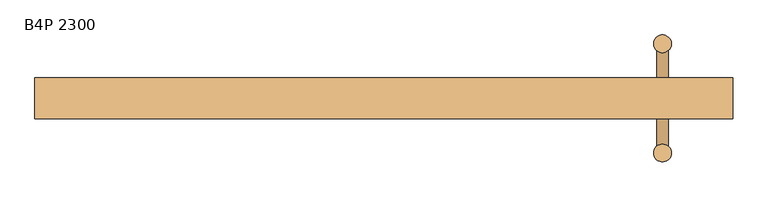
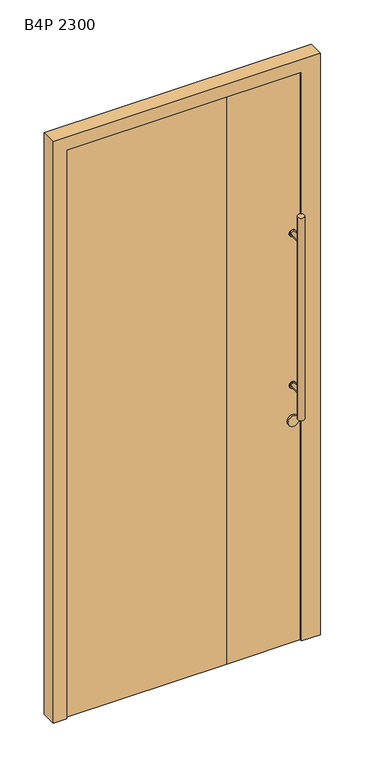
"""IFC4 building model written with IfcOpenShell, lengths in millimetres: door geometry, Mobiliário_Mobiliário de Escritório_Porta de Giro Pivotante - BP_Marelli : B4P 2300."""

from ifc_helpers import new_model, si_unit, point, frame, frame_2d, origin, place, context, project, spatial, polyline, circle_curve, trimmed, segment, composite_curve, outline, extrude, faceted_brep, source, transform, mapped, element, save


def b4p_2300_ee545821(model_context):
    return source(origin(), model_context, "Body", "SolidModel", [
        extrude(outline(polyline([(-447.5, -8.0), (-447.5, 34.0), (190.5, 34.0), (447.5, 34.0), (447.5, -8.0), (152.5, -8.0), (-447.5, -8.0)])), frame((0.0, 0.0, 0.2), z_axis=(0.0, 0.0, 1.0), x_axis=(1.0, 0.0, 0.0)), (0.0, 0.0, 1.0), 2248.3),
        faceted_brep([(-500.0, 42.5, 0.0), (-429.0, 42.5, 0.0), (-429.0, 34.0, 0.0), (-450.0, 34.0, 0.0), (-450.0, -16.5, 0.0), (-500.0, -16.5, 0.0), (500.0, -16.5, 0.0), (429.0, -16.5, 0.0), (429.0, -8.0, 0.0), (450.0, -8.0, 0.0), (450.0, 42.5, 0.0), (500.0, 42.5, 0.0), (-500.0, -16.5, 2300.0), (-500.0, 42.5, 2300.0), (-450.0, -16.5, 2250.0), (429.0, -16.5, 2250.0), (500.0, -16.5, 2300.0), (-450.0, 34.0, 2229.0), (-450.0, 27.0, 2229.0), (-450.0, 27.0, 2250.0), (-429.0, 34.0, 2229.0), (-429.0, 42.5, 2229.0), (500.0, 42.5, 2300.0), (450.0, 42.5, 2229.0), (450.0, -8.0, 2250.0), (450.0, 27.0, 2250.0), (450.0, 27.0, 2229.0), (429.0, -8.0, 2250.0)], [[[0, 1, 2, 3, 4, 5]], [[6, 7, 8, 9, 10, 11]], [[0, 5, 12, 13]], [[12, 5, 4, 14, 15, 7, 6, 16]], [[3, 17, 18, 19, 14, 4]], [[2, 20, 17, 3]], [[1, 21, 20, 2]], [[22, 11, 10, 23, 21, 1, 0, 13]], [[6, 11, 22, 16]], [[9, 24, 25, 26, 23, 10]], [[8, 27, 24, 9]], [[7, 15, 27, 8]], [[22, 13, 12, 16]], [[23, 26, 18, 17, 20, 21]], [[26, 25, 19, 18]], [[14, 19, 25, 24, 27, 15]]]),
        extrude(outline(composite_curve([segment(trimmed(circle_curve(frame_2d((399.5, 91.2)), 12.7), [point((386.8, 91.2))], [point((412.2, 91.2))], False, "CARTESIAN"), True, "CONTINUOUS"), segment(trimmed(circle_curve(frame_2d((399.5, 91.2)), 12.7), [point((412.2, 91.2))], [point((386.8, 91.2))], False, "CARTESIAN"), True, "CONTINUOUS")], self_intersect=False)), frame((0.0, 0.0, 920.0), z_axis=(0.0, 0.0, 1.0), x_axis=(1.0, 0.0, 0.0)), (0.0, 0.0, 1.0), 800.0),
        extrude(outline(composite_curve([segment(trimmed(circle_curve(frame_2d((399.5, -65.2)), 12.7), [point((386.8, -65.2))], [point((412.2, -65.2))], False, "CARTESIAN"), True, "CONTINUOUS"), segment(trimmed(circle_curve(frame_2d((399.5, -65.2)), 12.7), [point((412.2, -65.2))], [point((386.8, -65.2))], False, "CARTESIAN"), True, "CONTINUOUS")], self_intersect=False)), frame((0.0, 0.0, 920.0), z_axis=(0.0, 0.0, 1.0), x_axis=(1.0, 0.0, 0.0)), (0.0, 0.0, 1.0), 800.0),
        extrude(outline(composite_curve([segment(trimmed(circle_curve(frame_2d((1020.0, 399.5)), 12.7), [point((1020.0, 386.8))], [point((1020.0, 412.2))], False, "CARTESIAN"), True, "CONTINUOUS"), segment(trimmed(circle_curve(frame_2d((1020.0, 399.5)), 12.7), [point((1020.0, 412.2))], [point((1020.0, 386.8))], False, "CARTESIAN"), True, "CONTINUOUS")], self_intersect=False)), frame((0.0, -12.0, 0.0), z_axis=(0.0, 1.0, 0.0), x_axis=(0.0, 0.0, 1.0)), (0.0, 0.0, 1.0), 50.0),
        extrude(outline(composite_curve([segment(trimmed(circle_curve(frame_2d((1620.0, 399.5)), 12.7), [point((1620.0, 386.8))], [point((1620.0, 412.2))], False, "CARTESIAN"), True, "CONTINUOUS"), segment(trimmed(circle_curve(frame_2d((1620.0, 399.5)), 12.7), [point((1620.0, 412.2))], [point((1620.0, 386.8))], False, "CARTESIAN"), True, "CONTINUOUS")], self_intersect=False)), frame((0.0, -12.0, 0.0), z_axis=(0.0, 1.0, 0.0), x_axis=(0.0, 0.0, 1.0)), (0.0, 0.0, 1.0), 50.0),
        extrude(outline(composite_curve([segment(trimmed(circle_curve(frame_2d((1020.0, 399.5)), 8.0), [point((1020.0, 391.5))], [point((1020.0, 407.5))], False, "CARTESIAN"), True, "CONTINUOUS"), segment(trimmed(circle_curve(frame_2d((1020.0, 399.5)), 8.0), [point((1020.0, 407.5))], [point((1020.0, 391.5))], False, "CARTESIAN"), True, "CONTINUOUS")], self_intersect=False)), frame((0.0, -62.9261526, 0.0), z_axis=(0.0, 1.0, 0.0), x_axis=(0.0, 0.0, 1.0)), (0.0, 0.0, 1.0), 151.9261526),
        extrude(outline(composite_curve([segment(trimmed(circle_curve(frame_2d((1620.0, 399.5)), 8.0), [point((1620.0, 391.5))], [point((1620.0, 407.5))], False, "CARTESIAN"), True, "CONTINUOUS"), segment(trimmed(circle_curve(frame_2d((1620.0, 399.5)), 8.0), [point((1620.0, 407.5))], [point((1620.0, 391.5))], False, "CARTESIAN"), True, "CONTINUOUS")], self_intersect=False)), frame((0.0, -62.9261526, 0.0), z_axis=(0.0, 1.0, 0.0), x_axis=(0.0, 0.0, 1.0)), (0.0, 0.0, 1.0), 151.9261526),
        extrude(outline(composite_curve([segment(trimmed(circle_curve(frame_2d((880.75, 399.5)), 20.75), [point((880.75, 378.75))], [point((880.75, 420.25))], False, "CARTESIAN"), True, "CONTINUOUS"), segment(trimmed(circle_curve(frame_2d((880.75, 399.5)), 20.75), [point((880.75, 420.25))], [point((880.75, 378.75))], False, "CARTESIAN"), True, "CONTINUOUS")], self_intersect=False)), frame((0.0, -16.0, 0.0), z_axis=(0.0, 1.0, 0.0), x_axis=(0.0, 0.0, 1.0)), (0.0, 0.0, 1.0), 8.0),
        extrude(outline(composite_curve([segment(trimmed(circle_curve(frame_2d((880.75, 399.5)), 20.75), [point((880.75, 378.75))], [point((880.75, 420.25))], False, "CARTESIAN"), True, "CONTINUOUS"), segment(trimmed(circle_curve(frame_2d((880.75, 399.5)), 20.75), [point((880.75, 420.25))], [point((880.75, 378.75))], False, "CARTESIAN"), True, "CONTINUOUS")], self_intersect=False)), frame((0.0, 34.0, 0.0), z_axis=(0.0, 1.0, 0.0), x_axis=(0.0, 0.0, 1.0)), (0.0, 0.0, 1.0), 8.0),
    ])


if __name__ == "__main__":
    model = new_model("IFC4")
    model_context = context("Model", 3, world=origin())
    ifc_project = project(units=[si_unit("LENGTHUNIT", "METRE", prefix="MILLI")], contexts=[model_context])
    site = spatial("IfcSite", under=ifc_project)
    building = spatial("IfcBuilding", under=site)
    placement = place(None, origin())
    b4p_2300_shape = b4p_2300_ee545821(model_context)
    element("IfcDoor", 1, ObjectType="Mobiliário_Mobiliário de Escritório_Porta de Giro Pivotante - BP_Marelli : B4P 2300", at=placement, inside=building, context=model_context, shape_type="MappedRepresentation", body=[
        mapped(b4p_2300_shape, transform((0.0, 0.0, 0.0), x_axis=(1.0, 0.0, 0.0), y_axis=(0.0, 1.0, 0.0), z_axis=(0.0, 0.0, 1.0))),
    ])
    save(model, "model.ifc")
